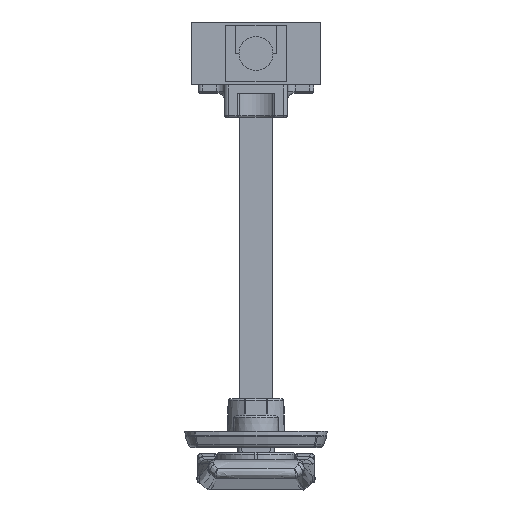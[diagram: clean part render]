
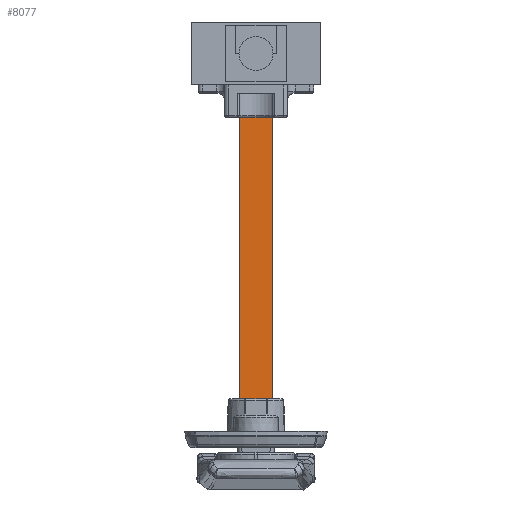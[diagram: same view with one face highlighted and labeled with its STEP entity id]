
A CAD part, front view. The second image highlights one B-rep face of the part: STEP entity #8077.
In plain terms, the highlighted planar face has unit normal (0, -1, 0) as drawn and (-1, 0, 0) by its records, which use the part's own axes.
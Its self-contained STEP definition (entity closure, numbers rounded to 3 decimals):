
#652 = VERTEX_POINT ( 'NONE', #2570 ) ;
#2570 = CARTESIAN_POINT ( 'NONE',  ( -4., -4., 0.5 ) ) ;
#3668 = CIRCLE ( 'NONE', #17176, 2.25 ) ;
#3919 = CARTESIAN_POINT ( 'NONE',  ( -4., 4., 100. ) ) ;
#3955 = CARTESIAN_POINT ( 'NONE',  ( -4., 4., 99.5 ) ) ;
#4345 = FACE_OUTER_BOUND ( 'NONE', #9108, .T. ) ;
#5519 = CARTESIAN_POINT ( 'NONE',  ( -4., 4., 100. ) ) ;
#5865 = CARTESIAN_POINT ( 'NONE',  ( -4., 4., 0.5 ) ) ;
#5877 = VERTEX_POINT ( 'NONE', #15903 ) ;
#6465 = VERTEX_POINT ( 'NONE', #7551 ) ;
#7470 = LINE ( 'NONE', #14175, #9734 ) ;
#7551 = CARTESIAN_POINT ( 'NONE',  ( -4., 0., 6.25 ) ) ;
#8077 = ADVANCED_FACE ( 'NONE', ( #24390, #4345 ), #15024, .F. ) ;
#8478 = ORIENTED_EDGE ( 'NONE', *, *, #10390, .T. ) ;
#9108 = EDGE_LOOP ( 'NONE', ( #8478, #15251, #14206, #21132 ) ) ;
#9374 = VECTOR ( 'NONE', #13875, 1000. ) ;
#9734 = VECTOR ( 'NONE', #18712, 1000. ) ;
#9978 = CARTESIAN_POINT ( 'NONE',  ( -4., 0., 1.75 ) ) ;
#10390 = EDGE_CURVE ( 'NONE', #10857, #15314, #16333, .T. ) ;
#10619 = DIRECTION ( 'NONE',  ( 0., 0., -1. ) ) ;
#10857 = VERTEX_POINT ( 'NONE', #3955 ) ;
#11602 = VECTOR ( 'NONE', #16613, 1000. ) ;
#12221 = VERTEX_POINT ( 'NONE', #9978 ) ;
#12270 = AXIS2_PLACEMENT_3D ( 'NONE', #17025, #12680, #10619 ) ;
#12680 = DIRECTION ( 'NONE',  ( 1., 0., 0. ) ) ;
#12997 = DIRECTION ( 'NONE',  ( 1., 0., 0. ) ) ;
#13279 = DIRECTION ( 'NONE',  ( 0., 1., 0. ) ) ;
#13337 = EDGE_CURVE ( 'NONE', #5877, #652, #18258, .T. ) ;
#13875 = DIRECTION ( 'NONE',  ( 0., 0., -1. ) ) ;
#14175 = CARTESIAN_POINT ( 'NONE',  ( -4., 4., 99.5 ) ) ;
#14206 = ORIENTED_EDGE ( 'NONE', *, *, #13337, .F. ) ;
#14229 = EDGE_CURVE ( 'NONE', #15314, #652, #25894, .T. ) ;
#14386 = DIRECTION ( 'NONE',  ( 1., 0., 0. ) ) ;
#15024 = PLANE ( 'NONE',  #26376 ) ;
#15251 = ORIENTED_EDGE ( 'NONE', *, *, #14229, .T. ) ;
#15314 = VERTEX_POINT ( 'NONE', #24407 ) ;
#15903 = CARTESIAN_POINT ( 'NONE',  ( -4., -4., 99.5 ) ) ;
#16333 = LINE ( 'NONE', #5519, #11602 ) ;
#16613 = DIRECTION ( 'NONE',  ( 0., 0., -1. ) ) ;
#17025 = CARTESIAN_POINT ( 'NONE',  ( -4., 0., 4. ) ) ;
#17176 = AXIS2_PLACEMENT_3D ( 'NONE', #26071, #14386, #19355 ) ;
#18111 = CARTESIAN_POINT ( 'NONE',  ( -4., -4., 100. ) ) ;
#18258 = LINE ( 'NONE', #18111, #9374 ) ;
#18712 = DIRECTION ( 'NONE',  ( 0., 1., 0. ) ) ;
#19303 = ORIENTED_EDGE ( 'NONE', *, *, #23556, .T. ) ;
#19355 = DIRECTION ( 'NONE',  ( 0., 0., -1. ) ) ;
#19869 = DIRECTION ( 'NONE',  ( 0., -1., 0. ) ) ;
#21008 = ORIENTED_EDGE ( 'NONE', *, *, #23948, .T. ) ;
#21132 = ORIENTED_EDGE ( 'NONE', *, *, #24206, .T. ) ;
#21146 = CIRCLE ( 'NONE', #12270, 2.25 ) ;
#21568 = EDGE_LOOP ( 'NONE', ( #21008, #19303 ) ) ;
#23118 = VECTOR ( 'NONE', #19869, 1000. ) ;
#23556 = EDGE_CURVE ( 'NONE', #12221, #6465, #21146, .T. ) ;
#23948 = EDGE_CURVE ( 'NONE', #6465, #12221, #3668, .T. ) ;
#24206 = EDGE_CURVE ( 'NONE', #5877, #10857, #7470, .T. ) ;
#24390 = FACE_BOUND ( 'NONE', #21568, .T. ) ;
#24407 = CARTESIAN_POINT ( 'NONE',  ( -4., 4., 0.5 ) ) ;
#25894 = LINE ( 'NONE', #5865, #23118 ) ;
#26071 = CARTESIAN_POINT ( 'NONE',  ( -4., 0., 4. ) ) ;
#26376 = AXIS2_PLACEMENT_3D ( 'NONE', #3919, #12997, #13279 ) ;
